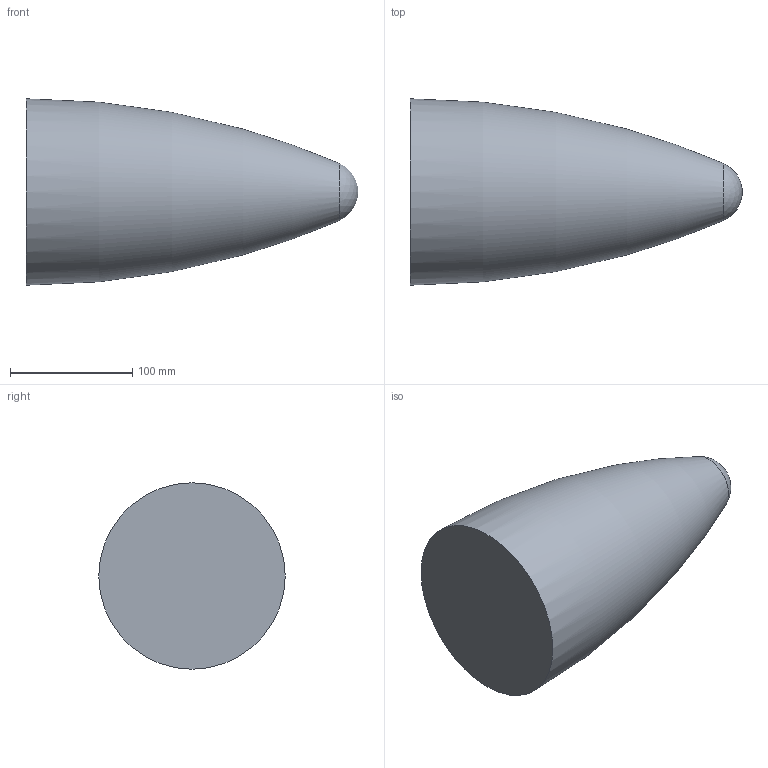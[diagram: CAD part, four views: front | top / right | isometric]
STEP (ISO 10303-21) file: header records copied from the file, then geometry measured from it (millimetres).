
FILE_DESCRIPTION (( 'STEP AP214' ), '1' );
FILE_NAME ('SphericallyBluntedTangentOgive.STEP', '2022-10-26T13:49:01', ( '' ), ( '' ), 'SwSTEP 2.0', 'SolidWorks 2020', '' );
FILE_SCHEMA (( 'AUTOMOTIVE_DESIGN' ));
Length unit declared in the file: inch
Products named in the file (1): SphericallyBluntedTangentOgive
Bounding box: 271.49 x 152.4 x 152.4 mm (x, y, z)
Volume: 3003629.4 mm3; surface area: 117516.3 mm2
Topology: 1 solids, 1 shells, 3 faces, 3 edges, 2 vertices
Faces by surface type: sphere 1, torus 1, plane 1
Entity records: 94 total; most frequent: DIRECTION 12, CARTESIAN_POINT 8, AXIS2_PLACEMENT_3D 6, FACE_OUTER_BOUND 4, ORIENTED_EDGE 4, EDGE_LOOP 4, UNCERTAINTY_MEASURE_WITH_UNIT 3, LENGTH_MEASURE_WITH_UNIT 3
